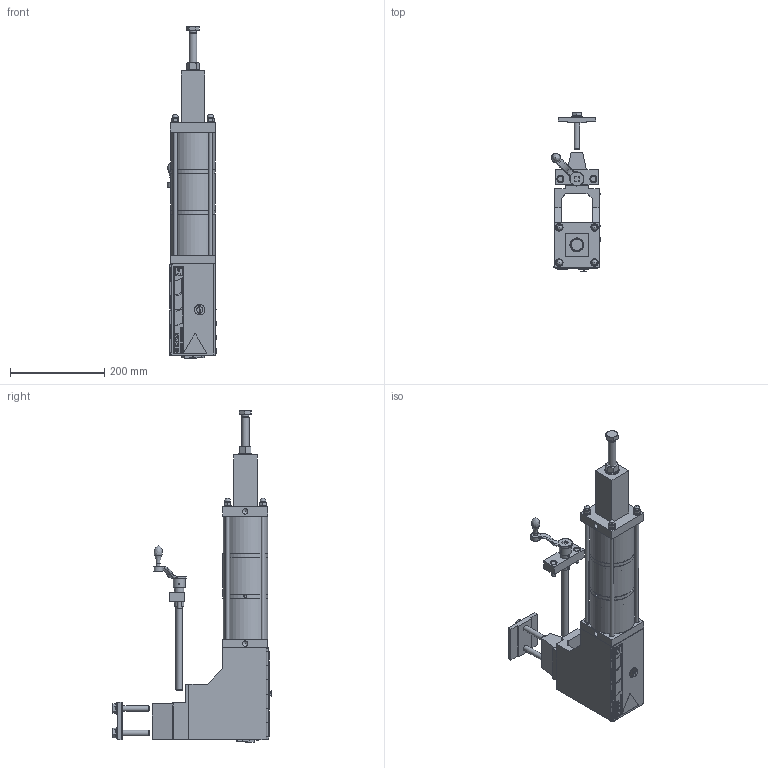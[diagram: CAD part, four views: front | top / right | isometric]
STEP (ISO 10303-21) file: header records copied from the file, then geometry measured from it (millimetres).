
FILE_DESCRIPTION(/* description */ (''),/* implementation_level */ '2;1');
FILE_NAME(/* name */ 'P:\Transfer Test\Pressen LP\LP Presseinheiten\PEH LP 12kN Hub60 G0400.stp',/* time_stamp */ '2021-01-25T14:19:48+01:00',/* author */ ('gsp'),/* organization */ (''),/* preprocessor_version */ 'ST-DEVELOPER v18',/* originating_system */ 'Autodesk Inventor 2020',/* authorisation */ '');
FILE_SCHEMA (('AUTOMOTIVE_DESIGN { 1 0 10303 214 3 1 1 }'));
Products named in the file (6): PEH LP 12kN Hub60 G0400; Spannplatte G0400; Führungseinheit_LP G0400_ohne_Schlitten_ANR17721; Schlittendummy_LP_G0400_ANR32652; LP_Zylinder_12kN_Hub60_ANR17777; Stellspindel G0400
Assembly tree (5 placements, depth 2):
  PEH LP 12kN Hub60 G0400
    Spannplatte G0400
    Führungseinheit_LP G0400_ohne_Schlitten_ANR17721
    Schlittendummy_LP_G0400_ANR32652
    LP_Zylinder_12kN_Hub60_ANR17777
    Stellspindel G0400
Bounding box: 105.22 x 337.54 x 705.5 mm (x, y, z)
Volume: 5611364.6 mm3; surface area: 801144.8 mm2
Topology: 98 solids, 108 shells, 6774 faces, 18233 edges, 12193 vertices
Faces by surface type: plane 3495, bspline 2523, cylinder 440, cone 248, torus 60, sphere 8
Full cylindrical faces by diameter (mm): 1.5 x8, 2 x12, 2.1 x4, 2.459 x4, 3 x4, 3.242 x4, 3.5 x2, 4 x16, 4.134 x14, 4.2 x4, 4.5 x8, 4.917 x7, 5 x10, 5.1 x4, 5.3 x2, 5.5 x5, 6 x15, 6.25 x4, 6.4 x4, 6.5 x1, 6.6 x6, 6.647 x4, 6.917 x1, 7 x2, 7.3 x4, 7.53 x8, 8 x7, 8.376 x2, 8.4 x8, 8.5 x7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
Entity records: 231057 total; most frequent: CARTESIAN_POINT 70882, ORIENTED_EDGE 36308, DIRECTION 22877, EDGE_CURVE 18154, VERTEX_POINT 12193, LINE 10891, VECTOR 10891, EDGE_LOOP 7596
